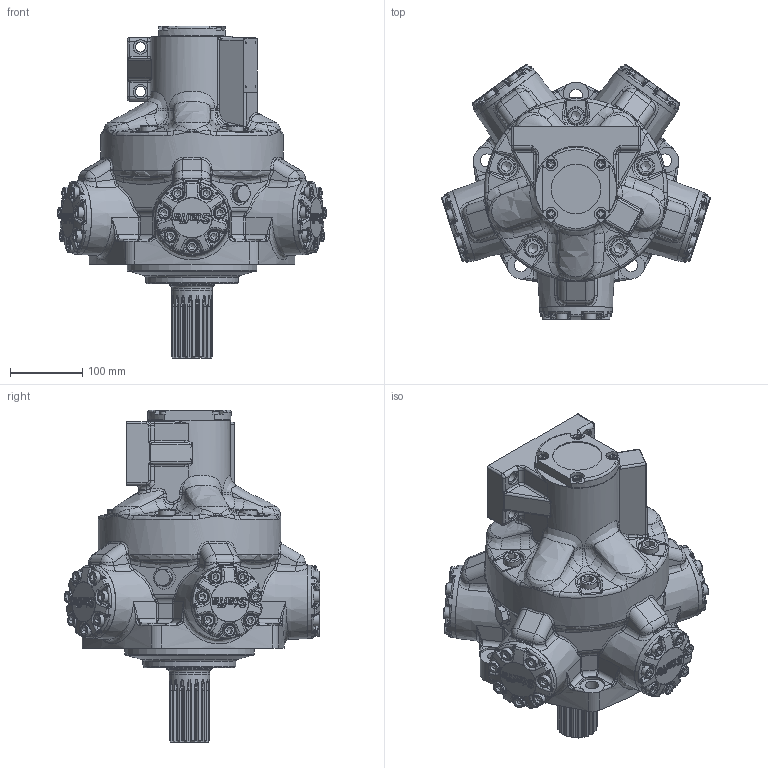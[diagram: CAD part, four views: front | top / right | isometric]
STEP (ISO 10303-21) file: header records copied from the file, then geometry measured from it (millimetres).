
FILE_DESCRIPTION(/* description */ (''),/* implementation_level */ '2;1');
FILE_NAME(/* name */ 'HMB030_S_SM3_50.stp',/* time_stamp */ '2025-12-16T14:11:03Z',/* author */ ('ccallanga'),/* organization */ (''),/* preprocessor_version */ 'ST-DEVELOPER v20',/* originating_system */ 'Autodesk Inventor 2024',/* authorisation */ '');
FILE_SCHEMA (('AUTOMOTIVE_DESIGN { 1 0 10303 214 3 1 1 }'));
Products named in the file (1): HMB030 Web Assembly_Simplify_1
Bounding box: 373.48 x 355.32 x 460.99 mm (x, y, z)
Volume: 15240909.7 mm3; surface area: 552107.7 mm2
Topology: 1 solids, 1 shells, 4407 faces, 10628 edges, 6239 vertices
Faces by surface type: bspline 1822, plane 976, cylinder 927, torus 407, cone 158, sphere 117
Full cylindrical faces by diameter (mm): 2.2 x4, 6.5 x1, 7 x1, 8.376 x2, 9.4 x1, 11.328 x1, 11.913 x4, 12 x1, 12.7 x4, 13.614 x1, 14 x4, 16 x40, 16.5 x35, 17 x5, 17.78 x1, 18 x5, 20 x4, 23.8 x2, 23.825 x5, 25.4 x5, 31.75 x3, 32 x2, 56.35 x1, 63.474 x1, 67.564 x1, 68.58 x1, 179.934 x1, 228.613 x1, 254 x1
Entity records: 199071 total; most frequent: CARTESIAN_POINT 105206, ORIENTED_EDGE 20918, DIRECTION 14780, EDGE_CURVE 10459, VERTEX_POINT 6239, AXIS2_PLACEMENT_3D 5908, EDGE_LOOP 4610, STYLED_ITEM 4408
